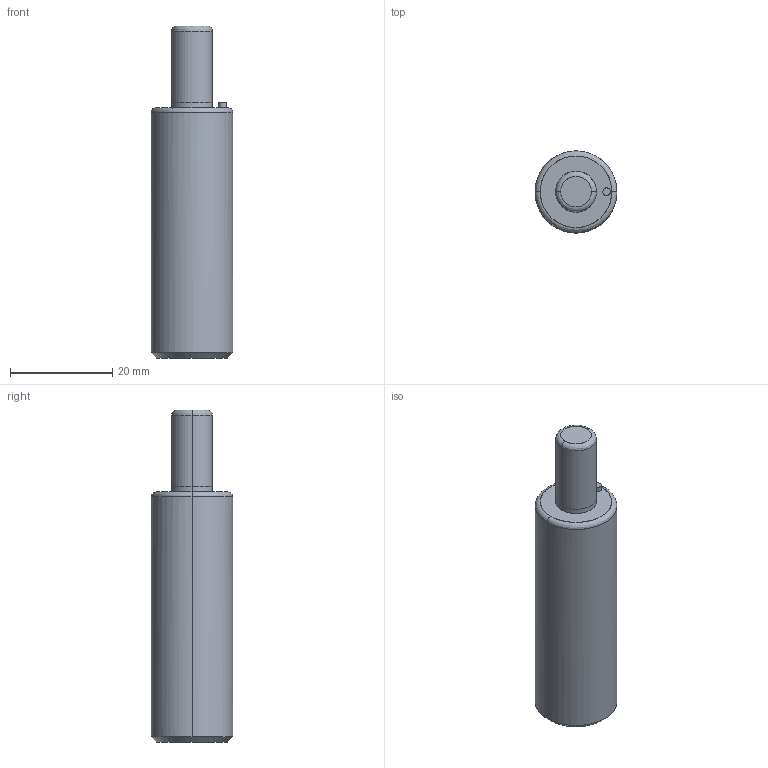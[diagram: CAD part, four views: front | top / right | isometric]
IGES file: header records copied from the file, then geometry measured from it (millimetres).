
Global section: file name: E:\UnigraphicsGraphicData\MISUMI_PRESS-PARTS\IGES\3d_mgsc16-15_04571_r00.igs; native system: NX V5.0; preprocessor: UGS NX IGES V5.0; author: MISUMI; date: 20110105.161434; units: millimetre
Bounding box: 16 x 15.99 x 65 mm (x, y, z)
Surface area: 3369 mm2 (no closed solid volume)
Topology: 0 solids, 0 shells, 24 faces, 136 edges, 134 vertices
Faces by surface type: bspline 24
